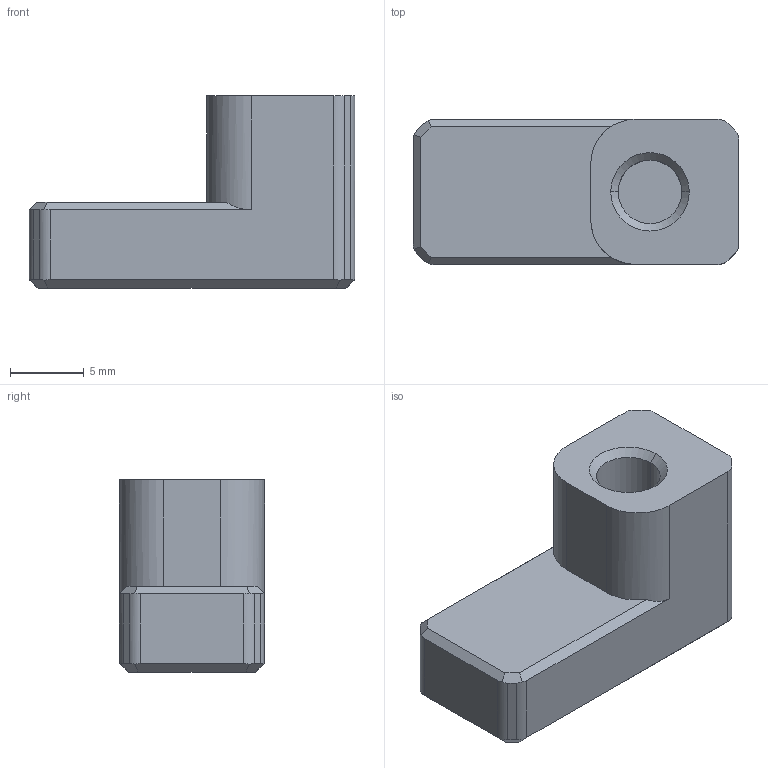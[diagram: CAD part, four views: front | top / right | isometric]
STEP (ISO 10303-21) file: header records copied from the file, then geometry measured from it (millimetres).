
FILE_DESCRIPTION((''),'2;1');
FILE_NAME('_JJJ0002','2025-04-16T16:47:27',('Mayn'),(''),'CREO PARAMETRIC BY PTC INC, 2024063','CREO PARAMETRIC BY PTC INC, 2024063','');
FILE_SCHEMA(('CONFIG_CONTROL_DESIGN'));
Length unit declared in the file: millimetre
Products named in the file (1): _JJJ0002
Bounding box: 22 x 9.8 x 13 mm (x, y, z)
Volume: 1740.8 mm3; surface area: 1134.7 mm2
Topology: 1 solids, 1 shells, 44 faces, 118 edges, 78 vertices
Faces by surface type: plane 29, cylinder 13, cone 2
Entity records: 1397 total; most frequent: CARTESIAN_POINT 289, ORIENTED_EDGE 236, DIRECTION 196, EDGE_CURVE 118, VERTEX_POINT 78, VECTOR 76, LINE 76, AXIS2_PLACEMENT_3D 60
